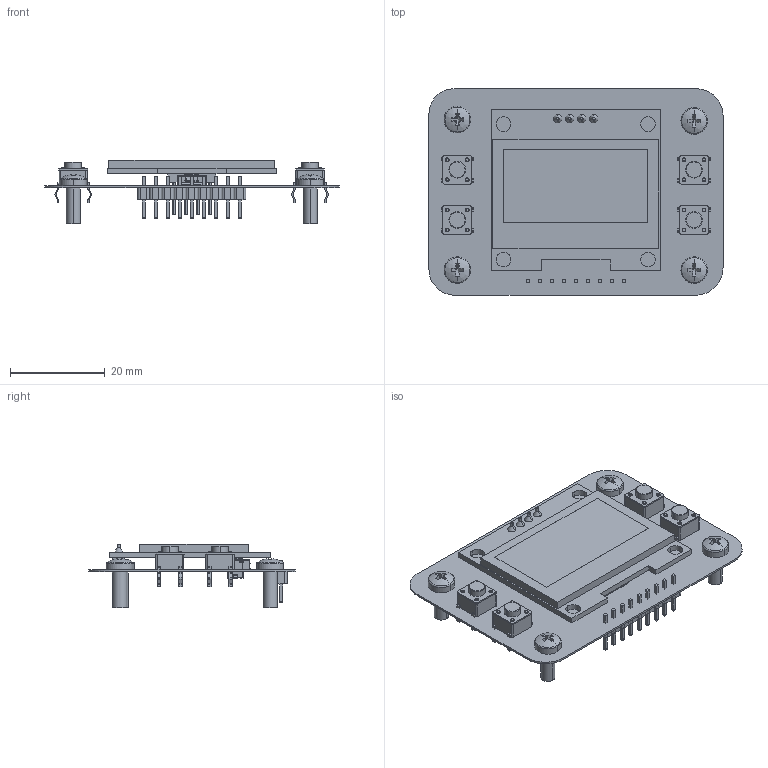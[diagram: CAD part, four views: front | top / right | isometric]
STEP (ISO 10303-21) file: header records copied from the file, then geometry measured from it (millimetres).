
FILE_DESCRIPTION(('Open CASCADE Model'),'2;1');
FILE_NAME('Open CASCADE Shape Model','2022-01-08T21:58:15',('Author'),( 'Open CASCADE'),'Open CASCADE STEP processor 6.8','Open CASCADE 6.8' ,'Unknown');
FILE_SCHEMA(('AUTOMOTIVE_DESIGN { 1 0 10303 214 1 1 1 1 }'));
Length unit declared in the file: millimetre
Products named in the file (34): PCB; Board; Open CASCADE STEP translator 6.8 5.1.1; SW6; User_Library-Tactile_switch_6x6x5mm; SW5; SW4; SW3; SW2; User_Library-222CMVABR; Main_Body; Button; Right_Ear; Left_ear; Leg1; Leg3; Leg2; Leg4; Shield; SW1; User_Library-DTSMF-32; Part2; Part2_2; Part8; Sheet_Metal_Part6; P1; User_Library-Header_Single_Pin; M4; User_Library-Screw_Metric_Pan_3mm_x_8mm; M3; M2; M1; DISP1; Display_OLED_SSD1306_1.3inch
Assembly tree (48 placements, depth 4):
  PCB
    Board
      Open CASCADE STEP translator 6.8 5.1.1
    SW6
      User_Library-Tactile_switch_6x6x5mm
    SW5
      User_Library-Tactile_switch_6x6x5mm
    SW4
      User_Library-Tactile_switch_6x6x5mm
    SW3
      User_Library-Tactile_switch_6x6x5mm
    SW2
      User_Library-222CMVABR
        Main_Body
        Button
        Right_Ear
        Left_ear
        Leg1
        Leg3
        Leg2
        Leg4
        Shield
    SW1
      User_Library-DTSMF-32
        Part2
        Part2_2
        Part8
        Sheet_Metal_Part6  x2
    P1
      User_Library-Header_Single_Pin  x9
    M4
      User_Library-Screw_Metric_Pan_3mm_x_8mm
    M3
      User_Library-Screw_Metric_Pan_3mm_x_8mm
    M2
      User_Library-Screw_Metric_Pan_3mm_x_8mm
    M1
      User_Library-Screw_Metric_Pan_3mm_x_8mm
    DISP1
      Display_OLED_SSD1306_1.3inch
Bounding box: 62.1 x 43.6 x 13.44 mm (x, y, z)
Volume: 5236.7 mm3; surface area: 10763.8 mm2
Topology: 32 solids, 34 shells, 1123 faces, 2795 edges, 1812 vertices
Faces by surface type: plane 680, cylinder 366, torus 48, bspline 13, sphere 8, cone 8
Entity records: 16397 total; most frequent: CARTESIAN_POINT 2562, DIRECTION 2450, ORIENTED_EDGE 2238, EDGE_CURVE 1123, AXIS2_PLACEMENT_3D 834, LINE 782, VECTOR 782, VERTEX_POINT 726
